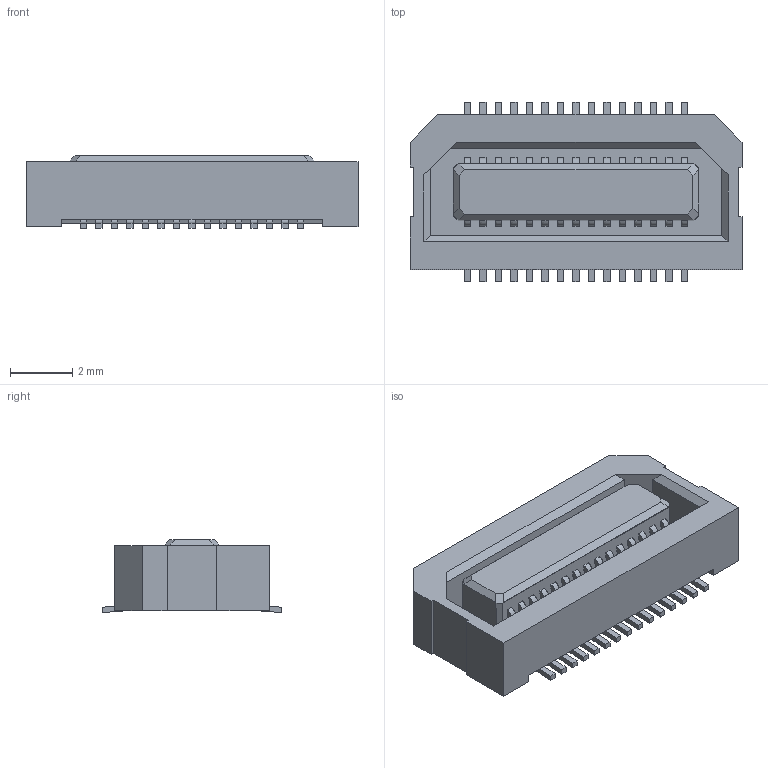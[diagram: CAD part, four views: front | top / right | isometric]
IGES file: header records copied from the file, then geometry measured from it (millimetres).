
Global section: file name: Q:\us339562\sn 90109 3d\P05N-030ST-A-G_IGS.igs; native system: NX V5.0; preprocessor: UGS NX IGES V5.0; date: 20090902.101402; units: millimetre
Bounding box: 10.7 x 5.8 x 2.35 mm (x, y, z)
Surface area: 260.7 mm2 (no closed solid volume)
Topology: 0 solids, 0 shells, 474 faces, 2636 edges, 2636 vertices
Faces by surface type: bspline 474
